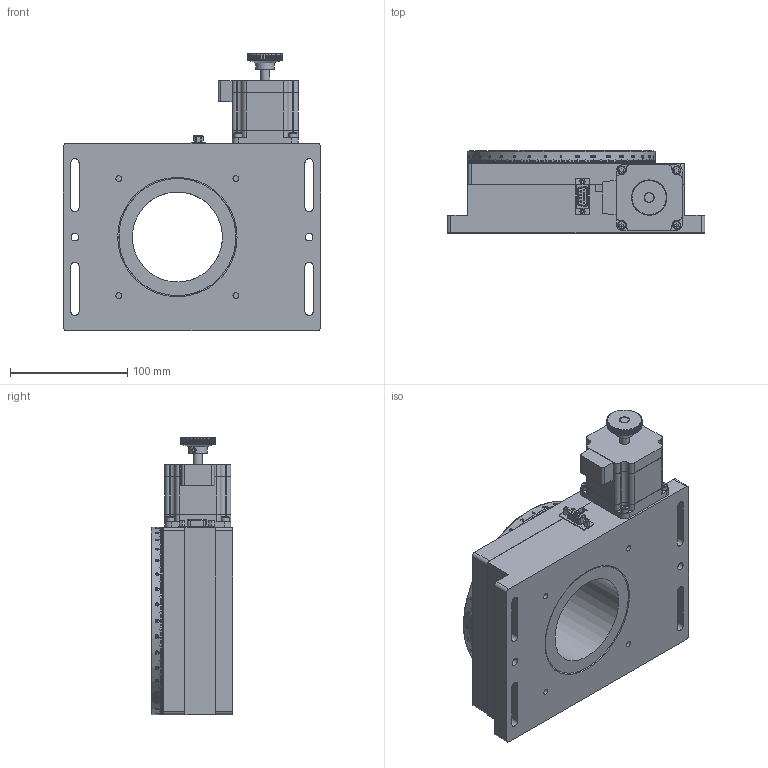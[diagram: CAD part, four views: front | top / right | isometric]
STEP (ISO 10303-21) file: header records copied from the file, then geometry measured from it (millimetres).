
FILE_DESCRIPTION (( 'STEP AP203' ), '1' );
FILE_NAME ('MRH-160.step', '2017-01-10T10:31:46', ( '¦K¬P' ), ( '' ), 'SwSTEP 2.0', 'SolidWorks 2012', '' );
FILE_SCHEMA (( 'CONFIG_CONTROL_DESIGN' ));
Products named in the file (1): MRH-160
Bounding box: 220 x 70 x 237 mm (x, y, z)
Surface area: 212531.6 mm2 (no closed solid volume)
Topology: 0 solids, 275 shells, 1042 faces, 6258 edges, 5431 vertices
Faces by surface type: cylinder 491, plane 469, cone 57, bspline 15, torus 10
Full cylindrical faces by diameter (mm): 1.04 x9, 3 x2, 3.3 x8, 4 x3, 5 x24, 6 x10, 6.6 x2, 7 x8, 8 x9, 11 x2, 15.8 x1, 77 x2, 100 x1, 102 x1, 160 x1
Entity records: 94169 total; most frequent: CARTESIAN_POINT 48993, DIRECTION 8316, ORIENTED_EDGE 7784, EDGE_CURVE 6083, VERTEX_POINT 5398, AXIS2_PLACEMENT_3D 2973, LINE 2370, VECTOR 2370
